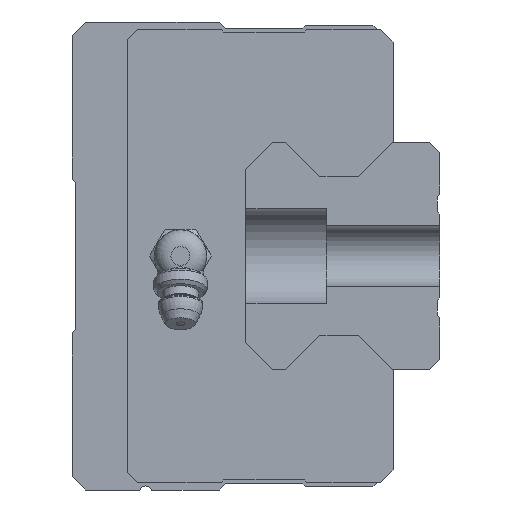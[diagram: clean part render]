
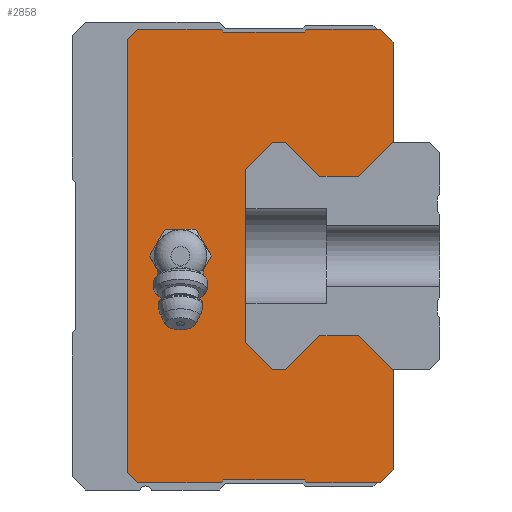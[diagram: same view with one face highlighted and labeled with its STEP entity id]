
A CAD part, left-side view. The second image highlights one B-rep face of the part: STEP entity #2858.
In plain terms, the highlighted planar face has unit normal (-1, 0, 0).
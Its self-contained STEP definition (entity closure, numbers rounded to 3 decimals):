
#749=ORIENTED_EDGE('',*,*,#1192,.F.);
#750=ORIENTED_EDGE('',*,*,#1227,.F.);
#751=ORIENTED_EDGE('',*,*,#1225,.F.);
#752=ORIENTED_EDGE('',*,*,#1223,.F.);
#753=ORIENTED_EDGE('',*,*,#1221,.F.);
#754=ORIENTED_EDGE('',*,*,#1219,.F.);
#755=ORIENTED_EDGE('',*,*,#1217,.F.);
#756=ORIENTED_EDGE('',*,*,#1215,.F.);
#757=ORIENTED_EDGE('',*,*,#1213,.F.);
#758=ORIENTED_EDGE('',*,*,#1211,.F.);
#759=ORIENTED_EDGE('',*,*,#1209,.F.);
#760=ORIENTED_EDGE('',*,*,#1207,.F.);
#761=ORIENTED_EDGE('',*,*,#1205,.F.);
#762=ORIENTED_EDGE('',*,*,#1203,.F.);
#763=ORIENTED_EDGE('',*,*,#1201,.F.);
#764=ORIENTED_EDGE('',*,*,#1199,.F.);
#765=ORIENTED_EDGE('',*,*,#1073,.F.);
#766=ORIENTED_EDGE('',*,*,#1070,.F.);
#767=ORIENTED_EDGE('',*,*,#1067,.F.);
#768=ORIENTED_EDGE('',*,*,#1064,.F.);
#769=ORIENTED_EDGE('',*,*,#1061,.F.);
#770=ORIENTED_EDGE('',*,*,#1058,.F.);
#771=ORIENTED_EDGE('',*,*,#1055,.F.);
#772=ORIENTED_EDGE('',*,*,#1052,.F.);
#773=ORIENTED_EDGE('',*,*,#1049,.F.);
#774=ORIENTED_EDGE('',*,*,#1046,.F.);
#775=ORIENTED_EDGE('',*,*,#1041,.F.);
#776=ORIENTED_EDGE('',*,*,#1198,.F.);
#777=ORIENTED_EDGE('',*,*,#1196,.F.);
#778=ORIENTED_EDGE('',*,*,#1194,.F.);
#779=ORIENTED_EDGE('',*,*,#1228,.T.);
#780=ORIENTED_EDGE('',*,*,#1229,.T.);
#781=ORIENTED_EDGE('',*,*,#1230,.T.);
#782=ORIENTED_EDGE('',*,*,#1231,.T.);
#783=ORIENTED_EDGE('',*,*,#1232,.T.);
#784=ORIENTED_EDGE('',*,*,#1233,.T.);
#1041=EDGE_CURVE('',#1393,#1394,#1681,.T.);
#1046=EDGE_CURVE('',#1394,#1398,#1686,.T.);
#1049=EDGE_CURVE('',#1398,#1400,#1689,.T.);
#1052=EDGE_CURVE('',#1400,#1402,#1692,.T.);
#1055=EDGE_CURVE('',#1402,#1404,#1695,.T.);
#1058=EDGE_CURVE('',#1404,#1406,#1698,.T.);
#1061=EDGE_CURVE('',#1406,#1408,#1701,.T.);
#1064=EDGE_CURVE('',#1408,#1410,#1704,.T.);
#1067=EDGE_CURVE('',#1410,#1412,#1707,.T.);
#1070=EDGE_CURVE('',#1412,#1414,#1710,.T.);
#1073=EDGE_CURVE('',#1414,#1416,#1713,.T.);
#1192=EDGE_CURVE('',#1493,#1494,#1818,.T.);
#1194=EDGE_CURVE('',#1494,#1495,#1820,.T.);
#1196=EDGE_CURVE('',#1495,#1496,#1822,.T.);
#1198=EDGE_CURVE('',#1496,#1393,#1824,.T.);
#1199=EDGE_CURVE('',#1416,#1497,#1825,.T.);
#1201=EDGE_CURVE('',#1497,#1498,#1827,.T.);
#1203=EDGE_CURVE('',#1498,#1499,#1829,.T.);
#1205=EDGE_CURVE('',#1499,#1500,#1831,.T.);
#1207=EDGE_CURVE('',#1500,#1501,#1833,.T.);
#1209=EDGE_CURVE('',#1501,#1502,#1835,.T.);
#1211=EDGE_CURVE('',#1502,#1503,#1837,.T.);
#1213=EDGE_CURVE('',#1503,#1504,#1839,.T.);
#1215=EDGE_CURVE('',#1504,#1505,#1841,.T.);
#1217=EDGE_CURVE('',#1505,#1506,#1843,.T.);
#1219=EDGE_CURVE('',#1506,#1507,#1845,.T.);
#1221=EDGE_CURVE('',#1507,#1508,#1847,.T.);
#1223=EDGE_CURVE('',#1508,#1509,#1849,.T.);
#1225=EDGE_CURVE('',#1509,#1510,#1851,.T.);
#1227=EDGE_CURVE('',#1510,#1493,#1853,.T.);
#1228=EDGE_CURVE('',#1511,#1512,#1854,.T.);
#1229=EDGE_CURVE('',#1512,#1513,#1855,.T.);
#1230=EDGE_CURVE('',#1513,#1514,#1856,.T.);
#1231=EDGE_CURVE('',#1514,#1515,#1857,.T.);
#1232=EDGE_CURVE('',#1515,#1516,#1858,.T.);
#1233=EDGE_CURVE('',#1516,#1511,#1859,.T.);
#1393=VERTEX_POINT('',#4241);
#1394=VERTEX_POINT('',#4243);
#1398=VERTEX_POINT('',#4253);
#1400=VERTEX_POINT('',#4259);
#1402=VERTEX_POINT('',#4265);
#1404=VERTEX_POINT('',#4271);
#1406=VERTEX_POINT('',#4277);
#1408=VERTEX_POINT('',#4283);
#1410=VERTEX_POINT('',#4289);
#1412=VERTEX_POINT('',#4295);
#1414=VERTEX_POINT('',#4301);
#1416=VERTEX_POINT('',#4307);
#1493=VERTEX_POINT('',#4555);
#1494=VERTEX_POINT('',#4557);
#1495=VERTEX_POINT('',#4561);
#1496=VERTEX_POINT('',#4565);
#1497=VERTEX_POINT('',#4571);
#1498=VERTEX_POINT('',#4575);
#1499=VERTEX_POINT('',#4579);
#1500=VERTEX_POINT('',#4583);
#1501=VERTEX_POINT('',#4587);
#1502=VERTEX_POINT('',#4591);
#1503=VERTEX_POINT('',#4595);
#1504=VERTEX_POINT('',#4599);
#1505=VERTEX_POINT('',#4603);
#1506=VERTEX_POINT('',#4607);
#1507=VERTEX_POINT('',#4611);
#1508=VERTEX_POINT('',#4615);
#1509=VERTEX_POINT('',#4619);
#1510=VERTEX_POINT('',#4623);
#1511=VERTEX_POINT('',#4629);
#1512=VERTEX_POINT('',#4630);
#1513=VERTEX_POINT('',#4632);
#1514=VERTEX_POINT('',#4634);
#1515=VERTEX_POINT('',#4636);
#1516=VERTEX_POINT('',#4638);
#1681=LINE('',#4242,#2019);
#1686=LINE('',#4252,#2024);
#1689=LINE('',#4258,#2027);
#1692=LINE('',#4264,#2030);
#1695=LINE('',#4270,#2033);
#1698=LINE('',#4276,#2036);
#1701=LINE('',#4282,#2039);
#1704=LINE('',#4288,#2042);
#1707=LINE('',#4294,#2045);
#1710=LINE('',#4300,#2048);
#1713=LINE('',#4306,#2051);
#1818=LINE('',#4556,#2156);
#1820=LINE('',#4560,#2158);
#1822=LINE('',#4564,#2160);
#1824=LINE('',#4568,#2162);
#1825=LINE('',#4570,#2163);
#1827=LINE('',#4574,#2165);
#1829=LINE('',#4578,#2167);
#1831=LINE('',#4582,#2169);
#1833=LINE('',#4586,#2171);
#1835=LINE('',#4590,#2173);
#1837=LINE('',#4594,#2175);
#1839=LINE('',#4598,#2177);
#1841=LINE('',#4602,#2179);
#1843=LINE('',#4606,#2181);
#1845=LINE('',#4610,#2183);
#1847=LINE('',#4614,#2185);
#1849=LINE('',#4618,#2187);
#1851=LINE('',#4622,#2189);
#1853=LINE('',#4626,#2191);
#1854=LINE('',#4628,#2192);
#1855=LINE('',#4631,#2193);
#1856=LINE('',#4633,#2194);
#1857=LINE('',#4635,#2195);
#1858=LINE('',#4637,#2196);
#1859=LINE('',#4639,#2197);
#2019=VECTOR('',#3400,1000.);
#2024=VECTOR('',#3407,1000.);
#2027=VECTOR('',#3412,1000.);
#2030=VECTOR('',#3417,1000.);
#2033=VECTOR('',#3422,1000.);
#2036=VECTOR('',#3427,1000.);
#2039=VECTOR('',#3432,1000.);
#2042=VECTOR('',#3437,1000.);
#2045=VECTOR('',#3442,1000.);
#2048=VECTOR('',#3447,1000.);
#2051=VECTOR('',#3452,1000.);
#2156=VECTOR('',#3691,1000.);
#2158=VECTOR('',#3695,1000.);
#2160=VECTOR('',#3699,1000.);
#2162=VECTOR('',#3703,1000.);
#2163=VECTOR('',#3706,1000.);
#2165=VECTOR('',#3710,1000.);
#2167=VECTOR('',#3714,1000.);
#2169=VECTOR('',#3718,1000.);
#2171=VECTOR('',#3722,1000.);
#2173=VECTOR('',#3726,1000.);
#2175=VECTOR('',#3730,1000.);
#2177=VECTOR('',#3734,1000.);
#2179=VECTOR('',#3738,1000.);
#2181=VECTOR('',#3742,1000.);
#2183=VECTOR('',#3746,1000.);
#2185=VECTOR('',#3750,1000.);
#2187=VECTOR('',#3754,1000.);
#2189=VECTOR('',#3758,1000.);
#2191=VECTOR('',#3762,1000.);
#2192=VECTOR('',#3765,1000.);
#2193=VECTOR('',#3766,1000.);
#2194=VECTOR('',#3767,1000.);
#2195=VECTOR('',#3768,1000.);
#2196=VECTOR('',#3769,1000.);
#2197=VECTOR('',#3770,1000.);
#2364=EDGE_LOOP('',(#749,#750,#751,#752,#753,#754,#755,#756,#757,#758,#759,
#760,#761,#762,#763,#764,#765,#766,#767,#768,#769,#770,#771,#772,#773,#774,
#775,#776,#777,#778));
#2365=EDGE_LOOP('',(#779,#780,#781,#782,#783,#784));
#2557=FACE_BOUND('',#2364,.T.);
#2558=FACE_BOUND('',#2365,.T.);
#2714=PLANE('',#3090);
#2858=ADVANCED_FACE('',(#2557,#2558),#2714,.F.);
#3090=AXIS2_PLACEMENT_3D('',#4627,#3763,#3764);
#3400=DIRECTION('',(0.,0.707,-0.707));
#3407=DIRECTION('',(0.,1.,0.));
#3412=DIRECTION('',(0.,0.707,0.707));
#3417=DIRECTION('',(0.,1.,0.));
#3422=DIRECTION('',(0.,0.702,-0.712));
#3427=DIRECTION('',(0.,0.,-1.));
#3432=DIRECTION('',(0.,-0.702,-0.712));
#3437=DIRECTION('',(0.,-1.,0.));
#3442=DIRECTION('',(0.,-0.707,0.707));
#3447=DIRECTION('',(0.,-1.,0.));
#3452=DIRECTION('',(0.,-0.707,-0.707));
#3691=DIRECTION('',(0.,-1.,0.));
#3695=DIRECTION('',(0.,-0.707,-0.707));
#3699=DIRECTION('',(0.,0.,-1.));
#3703=DIRECTION('',(0.,1.,0.));
#3706=DIRECTION('',(0.,-1.,0.));
#3710=DIRECTION('',(0.,0.,-1.));
#3714=DIRECTION('',(0.,0.707,-0.707));
#3718=DIRECTION('',(0.,1.,0.));
#3722=DIRECTION('',(0.,0.707,0.707));
#3726=DIRECTION('',(0.,1.,0.));
#3730=DIRECTION('',(0.,0.707,-0.707));
#3734=DIRECTION('',(0.,1.,0.));
#3738=DIRECTION('',(0.,0.707,0.707));
#3742=DIRECTION('',(0.,0.,1.));
#3746=DIRECTION('',(0.,-0.707,0.707));
#3750=DIRECTION('',(0.,-1.,0.));
#3754=DIRECTION('',(0.,-0.707,-0.707));
#3758=DIRECTION('',(0.,-1.,0.));
#3762=DIRECTION('',(0.,-0.707,0.707));
#3763=DIRECTION('',(1.,0.,0.));
#3764=DIRECTION('',(0.,0.,-1.));
#3765=DIRECTION('',(0.,1.,0.));
#3766=DIRECTION('',(0.,0.5,0.866));
#3767=DIRECTION('',(0.,-0.5,0.866));
#3768=DIRECTION('',(0.,-1.,0.));
#3769=DIRECTION('',(0.,-0.5,-0.866));
#3770=DIRECTION('',(0.,0.5,-0.866));
#4241=CARTESIAN_POINT('',(-54.5,-47.87,17.));
#4242=CARTESIAN_POINT('',(-54.5,-47.87,17.));
#4243=CARTESIAN_POINT('',(-54.5,-42.77,11.9));
#4252=CARTESIAN_POINT('',(-54.5,-42.77,11.9));
#4253=CARTESIAN_POINT('',(-54.5,-37.07,11.9));
#4258=CARTESIAN_POINT('',(-54.5,-37.07,11.9));
#4259=CARTESIAN_POINT('',(-54.5,-31.97,17.));
#4264=CARTESIAN_POINT('',(-54.5,-31.97,17.));
#4265=CARTESIAN_POINT('',(-54.5,-30.,17.));
#4270=CARTESIAN_POINT('',(-54.5,-30.,17.));
#4271=CARTESIAN_POINT('',(-54.5,-26.,12.94));
#4276=CARTESIAN_POINT('',(-54.5,-26.,12.94));
#4277=CARTESIAN_POINT('',(-54.5,-26.,-12.94));
#4282=CARTESIAN_POINT('',(-54.5,-26.,-12.94));
#4283=CARTESIAN_POINT('',(-54.5,-30.,-17.));
#4288=CARTESIAN_POINT('',(-54.5,-30.,-17.));
#4289=CARTESIAN_POINT('',(-54.5,-31.97,-17.));
#4294=CARTESIAN_POINT('',(-54.5,-31.97,-17.));
#4295=CARTESIAN_POINT('',(-54.5,-37.07,-11.9));
#4300=CARTESIAN_POINT('',(-54.5,-37.07,-11.9));
#4301=CARTESIAN_POINT('',(-54.5,-42.77,-11.9));
#4306=CARTESIAN_POINT('',(-54.5,-42.77,-11.9));
#4307=CARTESIAN_POINT('',(-54.5,-47.87,-17.));
#4555=CARTESIAN_POINT('',(-54.5,-35.1,33.9));
#4556=CARTESIAN_POINT('',(-54.5,-35.1,33.9));
#4557=CARTESIAN_POINT('',(-54.5,-46.1,33.9));
#4560=CARTESIAN_POINT('',(-54.5,-46.1,33.9));
#4561=CARTESIAN_POINT('',(-54.5,-48.,32.));
#4564=CARTESIAN_POINT('',(-54.5,-48.,32.));
#4565=CARTESIAN_POINT('',(-54.5,-48.,17.));
#4568=CARTESIAN_POINT('',(-54.5,-48.,17.));
#4570=CARTESIAN_POINT('',(-54.5,-47.87,-17.));
#4571=CARTESIAN_POINT('',(-54.5,-48.,-17.));
#4574=CARTESIAN_POINT('',(-54.5,-48.,-17.));
#4575=CARTESIAN_POINT('',(-54.5,-48.,-32.));
#4578=CARTESIAN_POINT('',(-54.5,-48.,-32.));
#4579=CARTESIAN_POINT('',(-54.5,-46.1,-33.9));
#4582=CARTESIAN_POINT('',(-54.5,-46.1,-33.9));
#4583=CARTESIAN_POINT('',(-54.5,-35.1,-33.9));
#4586=CARTESIAN_POINT('',(-54.5,-35.1,-33.9));
#4587=CARTESIAN_POINT('',(-54.5,-34.7,-33.5));
#4590=CARTESIAN_POINT('',(-54.5,-34.7,-33.5));
#4591=CARTESIAN_POINT('',(-54.5,-22.7,-33.5));
#4594=CARTESIAN_POINT('',(-54.5,-22.7,-33.5));
#4595=CARTESIAN_POINT('',(-54.5,-22.3,-33.9));
#4598=CARTESIAN_POINT('',(-54.5,-22.3,-33.9));
#4599=CARTESIAN_POINT('',(-54.5,-9.8,-33.9));
#4602=CARTESIAN_POINT('',(-54.5,-9.8,-33.9));
#4603=CARTESIAN_POINT('',(-54.5,-8.3,-32.4));
#4606=CARTESIAN_POINT('',(-54.5,-8.3,-32.4));
#4607=CARTESIAN_POINT('',(-54.5,-8.3,32.4));
#4610=CARTESIAN_POINT('',(-54.5,-8.3,32.4));
#4611=CARTESIAN_POINT('',(-54.5,-9.8,33.9));
#4614=CARTESIAN_POINT('',(-54.5,-9.8,33.9));
#4615=CARTESIAN_POINT('',(-54.5,-22.3,33.9));
#4618=CARTESIAN_POINT('',(-54.5,-22.3,33.9));
#4619=CARTESIAN_POINT('',(-54.5,-22.7,33.5));
#4622=CARTESIAN_POINT('',(-54.5,-22.7,33.5));
#4623=CARTESIAN_POINT('',(-54.5,-34.7,33.5));
#4626=CARTESIAN_POINT('',(-54.5,-34.7,33.5));
#4627=CARTESIAN_POINT('',(-54.5,0.,0.));
#4628=CARTESIAN_POINT('',(-54.5,-18.509,-4.));
#4629=CARTESIAN_POINT('',(-54.5,-18.509,-4.));
#4630=CARTESIAN_POINT('',(-54.5,-13.891,-4.));
#4631=CARTESIAN_POINT('',(-54.5,-13.891,-4.));
#4632=CARTESIAN_POINT('',(-54.5,-11.581,0.));
#4633=CARTESIAN_POINT('',(-54.5,-11.581,0.));
#4634=CARTESIAN_POINT('',(-54.5,-13.891,4.));
#4635=CARTESIAN_POINT('',(-54.5,-13.891,4.));
#4636=CARTESIAN_POINT('',(-54.5,-18.509,4.));
#4637=CARTESIAN_POINT('',(-54.5,-18.509,4.));
#4638=CARTESIAN_POINT('',(-54.5,-20.819,0.));
#4639=CARTESIAN_POINT('',(-54.5,-20.819,0.));
